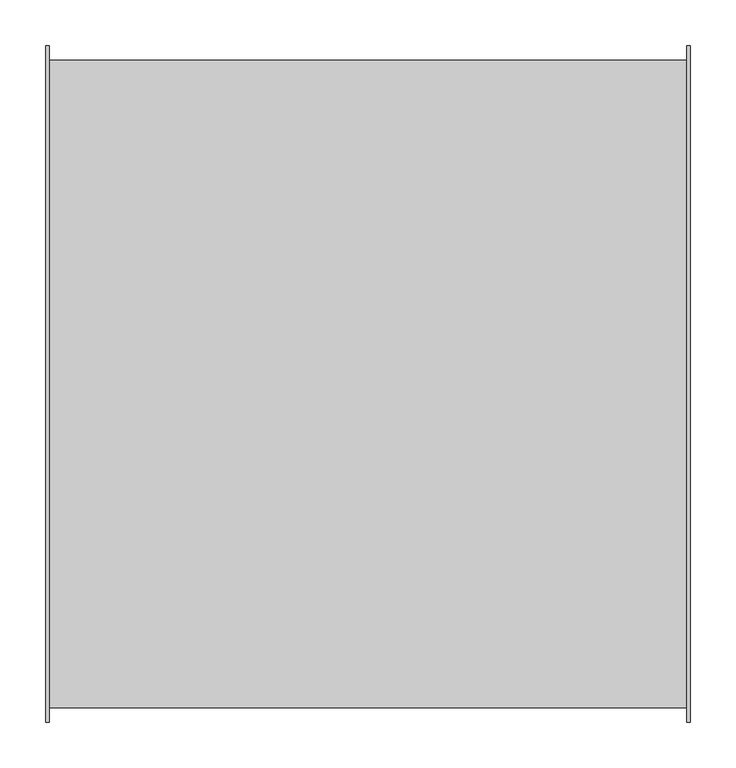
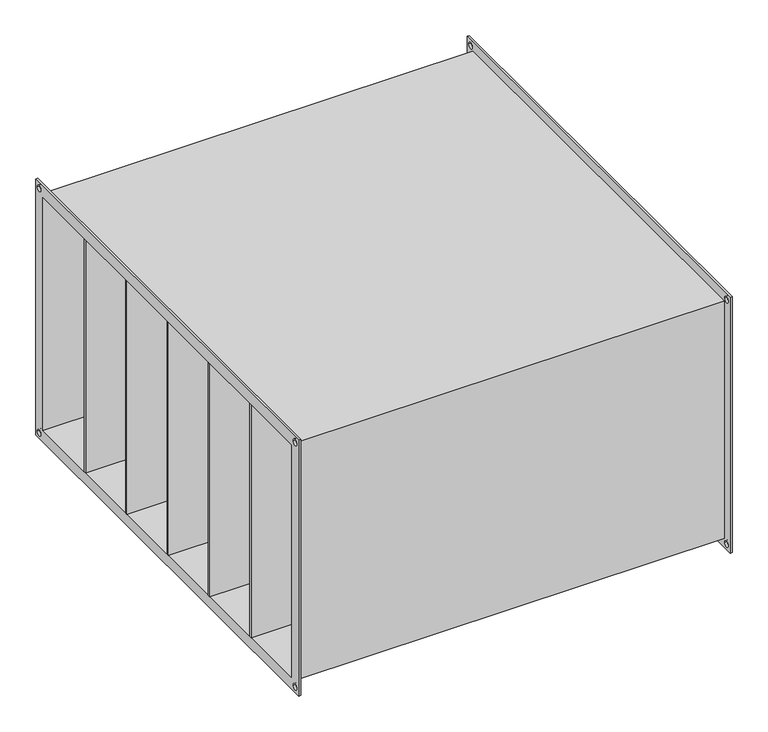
"""IFC4 building model written with IfcOpenShell, lengths in millimetres: damper geometry, СВ_ФильтрКарманный_КанальныйПрямоугольный_200-1000_SFPK : SFPK-700x400."""

from ifc_helpers import new_model, si_unit, frame, origin, place, context, project, spatial, polyline, circle_curve, outline, extrude, source, transform, mapped, element, save
from ifc_brep_helpers import plane_surface, revolved_surface, advanced_brep


def damper_c593be3b(model_context):
    return source(origin(), model_context, "Body", "SolidModel", [
        extrude(outline(polyline([(352.5, 233.3333333), (352.5, 229.3333333), (-352.5, 229.3333333), (-352.5, 233.3333333), (352.5, 233.3333333)])), frame((0.0, 0.0, -200.0), z_axis=(0.0, 0.0, 1.0), x_axis=(1.0, 0.0, 0.0)), (0.0, 0.0, 1.0), 400.0),
        extrude(outline(polyline([(352.5, 116.6666667), (352.5, 112.6666667), (-352.5, 112.6666667), (-352.5, 116.6666667), (352.5, 116.6666667)])), frame((0.0, 0.0, -200.0), z_axis=(0.0, 0.0, 1.0), x_axis=(1.0, 0.0, 0.0)), (0.0, 0.0, 1.0), 400.0),
        extrude(outline(polyline([(352.5, 0.0), (352.5, -4.0), (-352.5, -4.0), (-352.5, 0.0), (352.5, 0.0)])), frame((0.0, 0.0, -200.0), z_axis=(0.0, 0.0, 1.0), x_axis=(1.0, 0.0, 0.0)), (0.0, 0.0, 1.0), 400.0),
        extrude(outline(polyline([(352.5, -116.6666667), (352.5, -120.6666667), (-352.5, -120.6666667), (-352.5, -116.6666667), (352.5, -116.6666667)])), frame((0.0, 0.0, -200.0), z_axis=(0.0, 0.0, 1.0), x_axis=(1.0, 0.0, 0.0)), (0.0, 0.0, 1.0), 400.0),
        extrude(outline(polyline([(352.5, -233.3333333), (352.5, -237.3333333), (-352.5, -237.3333333), (-352.5, -233.3333333), (352.5, -233.3333333)])), frame((0.0, 0.0, -200.0), z_axis=(0.0, 0.0, 1.0), x_axis=(1.0, 0.0, 0.0)), (0.0, 0.0, 1.0), 400.0),
        advanced_brep(
        [(348.5, -354.0, 204.0), (-348.5, -354.0, 204.0), (-348.5, -354.0, -204.0), (348.5, -354.0, -204.0), (-348.5, 354.0, -204.0), (348.5, 354.0, -204.0), (-348.5, 354.0, 204.0), (348.5, 354.0, 204.0), (-352.5, -370.0, 220.0), (-352.5, 370.0, 220.0), (-352.5, 370.0, -220.0), (-352.5, -370.0, -220.0), (-352.5, -350.0, 200.0), (-352.5, -350.0, -200.0), (-352.5, 350.0, -200.0), (-352.5, 350.0, 200.0), (-352.5, 355.0, 210.0), (-352.5, 365.0, 210.0), (-352.5, -365.0, 210.0), (-352.5, -355.0, 210.0), (-352.5, -365.0, -210.0), (-352.5, -355.0, -210.0), (-352.5, 355.0, -210.0), (-352.5, 365.0, -210.0), (-348.5, -370.0, 220.0), (-348.5, -370.0, -220.0), (-348.5, 370.0, -220.0), (-348.5, 370.0, 220.0), (-348.5, 365.0, 210.0), (-348.5, 355.0, 210.0), (-348.5, -355.0, 210.0), (-348.5, -365.0, 210.0), (-348.5, -355.0, -210.0), (-348.5, -365.0, -210.0), (-348.5, 365.0, -210.0), (-348.5, 355.0, -210.0), (348.5, 370.0, 220.0), (348.5, 370.0, -220.0), (348.5, -370.0, -220.0), (348.5, -370.0, 220.0), (348.5, 355.0, 210.0), (348.5, 365.0, 210.0), (348.5, -365.0, 210.0), (348.5, -355.0, 210.0), (348.5, -365.0, -210.0), (348.5, -355.0, -210.0), (348.5, 355.0, -210.0), (348.5, 365.0, -210.0), (352.5, 370.0, 220.0), (352.5, -370.0, 220.0), (352.5, -370.0, -220.0), (352.5, 370.0, -220.0), (352.5, 350.0, 200.0), (352.5, 350.0, -200.0), (352.5, -350.0, -200.0), (352.5, -350.0, 200.0), (352.5, 365.0, 210.0), (352.5, 355.0, 210.0), (352.5, -355.0, 210.0), (352.5, -365.0, 210.0), (352.5, -355.0, -210.0), (352.5, -365.0, -210.0), (352.5, 365.0, -210.0), (352.5, 355.0, -210.0)],
        [
            (0, 1),
            (1, 2),
            (2, 3),
            (3, 0),
            (2, 4),
            (4, 5),
            (5, 3),
            (4, 6),
            (6, 7),
            (7, 5),
            (0, 7),
            (6, 1),
            (8, 9),
            (9, 10),
            (10, 11),
            (11, 8),
            (12, 13),
            (13, 14),
            (14, 15),
            (15, 12),
            (16, 17, circle_curve(frame((-352.5, 360.0, 210.0), z_axis=(1.0, 0.0, 0.0), x_axis=(0.0, 1.0, 0.0)), 5.0)),
            (17, 16, circle_curve(frame((-352.5, 360.0, 210.0), z_axis=(1.0, 0.0, 0.0), x_axis=(0.0, 1.0, 0.0)), 5.0)),
            (18, 19, circle_curve(frame((-352.5, -360.0, 210.0), z_axis=(1.0, 0.0, 0.0), x_axis=(0.0, 1.0, 0.0)), 5.0)),
            (19, 18, circle_curve(frame((-352.5, -360.0, 210.0), z_axis=(1.0, 0.0, 0.0), x_axis=(0.0, 1.0, 0.0)), 5.0)),
            (20, 21, circle_curve(frame((-352.5, -360.0, -210.0), z_axis=(1.0, 0.0, 0.0), x_axis=(0.0, 1.0, 0.0)), 5.0)),
            (21, 20, circle_curve(frame((-352.5, -360.0, -210.0), z_axis=(1.0, 0.0, 0.0), x_axis=(0.0, 1.0, 0.0)), 5.0)),
            (22, 23, circle_curve(frame((-352.5, 360.0, -210.0), z_axis=(1.0, 0.0, 0.0), x_axis=(0.0, 1.0, 0.0)), 5.0)),
            (23, 22, circle_curve(frame((-352.5, 360.0, -210.0), z_axis=(1.0, 0.0, 0.0), x_axis=(0.0, 1.0, 0.0)), 5.0)),
            (24, 25),
            (25, 26),
            (26, 27),
            (27, 24),
            (28, 29, circle_curve(frame((-348.5, 360.0, 210.0), z_axis=(-1.0, 0.0, 0.0), x_axis=(0.0, 1.0, 0.0)), 5.0)),
            (29, 28, circle_curve(frame((-348.5, 360.0, 210.0), z_axis=(-1.0, 0.0, 0.0), x_axis=(0.0, 1.0, 0.0)), 5.0)),
            (30, 31, circle_curve(frame((-348.5, -360.0, 210.0), z_axis=(-1.0, 0.0, 0.0), x_axis=(0.0, 1.0, 0.0)), 5.0)),
            (31, 30, circle_curve(frame((-348.5, -360.0, 210.0), z_axis=(-1.0, 0.0, 0.0), x_axis=(0.0, 1.0, 0.0)), 5.0)),
            (32, 33, circle_curve(frame((-348.5, -360.0, -210.0), z_axis=(-1.0, 0.0, 0.0), x_axis=(0.0, 1.0, 0.0)), 5.0)),
            (33, 32, circle_curve(frame((-348.5, -360.0, -210.0), z_axis=(-1.0, 0.0, 0.0), x_axis=(0.0, 1.0, 0.0)), 5.0)),
            (34, 35, circle_curve(frame((-348.5, 360.0, -210.0), z_axis=(-1.0, 0.0, 0.0), x_axis=(0.0, 1.0, 0.0)), 5.0)),
            (35, 34, circle_curve(frame((-348.5, 360.0, -210.0), z_axis=(-1.0, 0.0, 0.0), x_axis=(0.0, 1.0, 0.0)), 5.0)),
            (11, 25),
            (24, 8),
            (10, 26),
            (9, 27),
            (36, 37),
            (37, 38),
            (38, 39),
            (39, 36),
            (40, 41, circle_curve(frame((348.5, 360.0, 210.0), z_axis=(1.0, 0.0, 0.0), x_axis=(0.0, 1.0, 0.0)), 5.0)),
            (41, 40, circle_curve(frame((348.5, 360.0, 210.0), z_axis=(1.0, 0.0, 0.0), x_axis=(0.0, 1.0, 0.0)), 5.0)),
            (42, 43, circle_curve(frame((348.5, -360.0, 210.0), z_axis=(1.0, 0.0, 0.0), x_axis=(0.0, 1.0, 0.0)), 5.0)),
            (43, 42, circle_curve(frame((348.5, -360.0, 210.0), z_axis=(1.0, 0.0, 0.0), x_axis=(0.0, 1.0, 0.0)), 5.0)),
            (44, 45, circle_curve(frame((348.5, -360.0, -210.0), z_axis=(1.0, 0.0, 0.0), x_axis=(0.0, 1.0, 0.0)), 5.0)),
            (45, 44, circle_curve(frame((348.5, -360.0, -210.0), z_axis=(1.0, 0.0, 0.0), x_axis=(0.0, 1.0, 0.0)), 5.0)),
            (46, 47, circle_curve(frame((348.5, 360.0, -210.0), z_axis=(1.0, 0.0, 0.0), x_axis=(0.0, 1.0, 0.0)), 5.0)),
            (47, 46, circle_curve(frame((348.5, 360.0, -210.0), z_axis=(1.0, 0.0, 0.0), x_axis=(0.0, 1.0, 0.0)), 5.0)),
            (48, 49),
            (49, 50),
            (50, 51),
            (51, 48),
            (52, 53),
            (53, 54),
            (54, 55),
            (55, 52),
            (56, 57, circle_curve(frame((352.5, 360.0, 210.0), z_axis=(-1.0, 0.0, 0.0), x_axis=(0.0, 1.0, 0.0)), 5.0)),
            (57, 56, circle_curve(frame((352.5, 360.0, 210.0), z_axis=(-1.0, 0.0, 0.0), x_axis=(0.0, 1.0, 0.0)), 5.0)),
            (58, 59, circle_curve(frame((352.5, -360.0, 210.0), z_axis=(-1.0, 0.0, 0.0), x_axis=(0.0, 1.0, 0.0)), 5.0)),
            (59, 58, circle_curve(frame((352.5, -360.0, 210.0), z_axis=(-1.0, 0.0, 0.0), x_axis=(0.0, 1.0, 0.0)), 5.0)),
            (60, 61, circle_curve(frame((352.5, -360.0, -210.0), z_axis=(-1.0, 0.0, 0.0), x_axis=(0.0, 1.0, 0.0)), 5.0)),
            (61, 60, circle_curve(frame((352.5, -360.0, -210.0), z_axis=(-1.0, 0.0, 0.0), x_axis=(0.0, 1.0, 0.0)), 5.0)),
            (62, 63, circle_curve(frame((352.5, 360.0, -210.0), z_axis=(-1.0, 0.0, 0.0), x_axis=(0.0, 1.0, 0.0)), 5.0)),
            (63, 62, circle_curve(frame((352.5, 360.0, -210.0), z_axis=(-1.0, 0.0, 0.0), x_axis=(0.0, 1.0, 0.0)), 5.0)),
            (39, 49),
            (48, 36),
            (38, 50),
            (37, 51),
            (15, 52),
            (55, 12),
            (14, 53),
            (13, 54),
            (16, 29),
            (28, 17),
            (40, 57),
            (56, 41),
            (18, 31),
            (30, 19),
            (42, 59),
            (58, 43),
            (20, 33),
            (32, 21),
            (44, 61),
            (60, 45),
            (22, 35),
            (34, 23),
            (46, 63),
            (62, 47),
        ],
        [
            plane_surface(frame((348.5, -354.0, 204.0), z_axis=(0.0, -1.0, 0.0), x_axis=(-1.0, 0.0, 0.0))),
            plane_surface(frame((348.5, -354.0, -204.0), z_axis=(0.0, 0.0, -1.0), x_axis=(-1.0, 0.0, 0.0))),
            plane_surface(frame((348.5, 354.0, -204.0), z_axis=(0.0, 1.0, 0.0), x_axis=(-1.0, 0.0, 0.0))),
            plane_surface(frame((348.5, 354.0, 204.0), z_axis=(0.0, 0.0, 1.0), x_axis=(-1.0, 0.0, 0.0))),
            plane_surface(frame((-352.5, -370.0, 220.0), z_axis=(-1.0, 0.0, 0.0), x_axis=(0.0, 0.0, 1.0))),
            plane_surface(frame((-348.5, -370.0, 220.0), z_axis=(1.0, 0.0, 0.0), x_axis=(0.0, 0.0, -1.0))),
            plane_surface(frame((-348.5, -370.0, 220.0), z_axis=(0.0, -1.0, 0.0), x_axis=(-1.0, 0.0, 0.0))),
            plane_surface(frame((-348.5, -370.0, -220.0), z_axis=(0.0, 0.0, -1.0), x_axis=(-1.0, 0.0, 0.0))),
            plane_surface(frame((-348.5, 370.0, -220.0), z_axis=(0.0, 1.0, 0.0), x_axis=(-1.0, 0.0, 0.0))),
            plane_surface(frame((-348.5, 370.0, 220.0), z_axis=(0.0, 0.0, 1.0), x_axis=(-1.0, 0.0, 0.0))),
            plane_surface(frame((348.5, 350.0, -200.0), z_axis=(-1.0, 0.0, 0.0), x_axis=(0.0, 0.0, 1.0))),
            plane_surface(frame((352.5, 350.0, -200.0), z_axis=(1.0, 0.0, 0.0), x_axis=(0.0, 0.0, -1.0))),
            plane_surface(frame((352.5, 370.0, 220.0), z_axis=(0.0, 0.0, 1.0), x_axis=(-1.0, 0.0, 0.0))),
            plane_surface(frame((352.5, -370.0, 220.0), z_axis=(0.0, -1.0, 0.0), x_axis=(-1.0, 0.0, 0.0))),
            plane_surface(frame((352.5, -370.0, -220.0), z_axis=(0.0, 0.0, -1.0), x_axis=(-1.0, 0.0, 0.0))),
            plane_surface(frame((352.5, 370.0, -220.0), z_axis=(0.0, 1.0, 0.0), x_axis=(-1.0, 0.0, 0.0))),
            plane_surface(frame((-348.5, -350.0, 200.0), z_axis=(0.0, 0.0, -1.0), x_axis=(-1.0, 0.0, 0.0))),
            plane_surface(frame((-348.5, 350.0, 200.0), z_axis=(0.0, -1.0, 0.0), x_axis=(-1.0, 0.0, 0.0))),
            plane_surface(frame((-348.5, 350.0, -200.0), z_axis=(0.0, 0.0, 1.0), x_axis=(-1.0, 0.0, 0.0))),
            plane_surface(frame((-348.5, -350.0, -200.0), z_axis=(0.0, 1.0, 0.0), x_axis=(-1.0, 0.0, 0.0))),
            revolved_surface(polyline([(-348.5, 365.0, 210.0), (-352.5, 365.0, 210.0)]), (-352.5, 360.0, 210.0), (1.0, 0.0, 0.0)),
            revolved_surface(polyline([(352.5, 365.0, 210.0), (348.5, 365.0, 210.0)]), (-352.5, 360.0, 210.0), (1.0, 0.0, 0.0)),
            revolved_surface(polyline([(-348.5, -355.0, 210.0), (-352.5, -355.0, 210.0)]), (0.0, -360.0, 210.0), (1.0, 0.0, 0.0)),
            revolved_surface(polyline([(352.5, -355.0, 210.0), (348.5, -355.0, 210.0)]), (0.0, -360.0, 210.0), (1.0, 0.0, 0.0)),
            revolved_surface(polyline([(-348.5, -355.0, -210.0), (-352.5, -355.0, -210.0)]), (0.0, -360.0, -210.0), (1.0, 0.0, 0.0)),
            revolved_surface(polyline([(352.5, -355.0, -210.0), (348.5, -355.0, -210.0)]), (0.0, -360.0, -210.0), (1.0, 0.0, 0.0)),
            revolved_surface(polyline([(-348.5, 365.0, -210.0), (-352.5, 365.0, -210.0)]), (0.0, 360.0, -210.0), (1.0, 0.0, 0.0)),
            revolved_surface(polyline([(352.5, 365.0, -210.0), (348.5, 365.0, -210.0)]), (0.0, 360.0, -210.0), (1.0, 0.0, 0.0)),
        ],
        [
            (0, [[1, 2, 3, 4]]),
            (1, [[-3, 5, 6, 7]]),
            (2, [[-6, 8, 9, 10]]),
            (3, [[-1, 11, -9, 12]]),
            (4, [[13, 14, 15, 16], [17, 18, 19, 20], [21, 22], [23, 24], [25, 26], [27, 28]]),
            (5, [[29, 30, 31, 32], [-2, -12, -8, -5], [33, 34], [35, 36], [37, 38], [39, 40]]),
            (6, [[-16, 41, -29, 42]]),
            (7, [[-15, 43, -30, -41]]),
            (8, [[-14, 44, -31, -43]]),
            (9, [[-13, -42, -32, -44]]),
            (10, [[45, 46, 47, 48], [-4, -7, -10, -11], [49, 50], [51, 52], [53, 54], [55, 56]]),
            (11, [[57, 58, 59, 60], [61, 62, 63, 64], [65, 66], [67, 68], [69, 70], [71, 72]]),
            (12, [[-48, 73, -57, 74]]),
            (13, [[-47, 75, -58, -73]]),
            (14, [[-46, 76, -59, -75]]),
            (15, [[-45, -74, -60, -76]]),
            (16, [[-20, 77, -64, 78]]),
            (17, [[-77, -19, 79, -61]]),
            (18, [[-79, -18, 80, -62]]),
            (19, [[-80, -17, -78, -63]]),
            (20, [[81, -33, 82, -21]]),
            (21, [[83, -65, 84, -49]]),
            (20, [[-81, -22, -82, -34]]),
            (21, [[-83, -50, -84, -66]]),
            (22, [[85, -35, 86, -23]]),
            (23, [[87, -67, 88, -51]]),
            (22, [[-85, -24, -86, -36]]),
            (23, [[-87, -52, -88, -68]]),
            (24, [[89, -37, 90, -25]]),
            (25, [[91, -69, 92, -53]]),
            (24, [[-89, -26, -90, -38]]),
            (25, [[-91, -54, -92, -70]]),
            (26, [[93, -39, 94, -27]]),
            (27, [[95, -71, 96, -55]]),
            (26, [[-93, -28, -94, -40]]),
            (27, [[-95, -56, -96, -72]]),
        ],
    ),
    ])


if __name__ == "__main__":
    model = new_model("IFC4")
    model_context = context("Model", 3, world=origin())
    ifc_project = project(units=[si_unit("LENGTHUNIT", "METRE", prefix="MILLI")], contexts=[model_context])
    site = spatial("IfcSite", under=ifc_project)
    building = spatial("IfcBuilding", under=site)
    placement = place(None, origin())
    damper_shape = damper_c593be3b(model_context)
    element("IfcDamper", 1, ObjectType="СВ_ФильтрКарманный_КанальныйПрямоугольный_200-1000_SFPK : SFPK-700x400", at=placement, inside=building, context=model_context, shape_type="MappedRepresentation", body=[
        mapped(damper_shape, transform((0.0, 0.0, 0.0), x_axis=(1.0, 0.0, 0.0), y_axis=(0.0, 1.0, 0.0), z_axis=(0.0, 0.0, 1.0))),
    ])
    save(model, "model.ifc")
